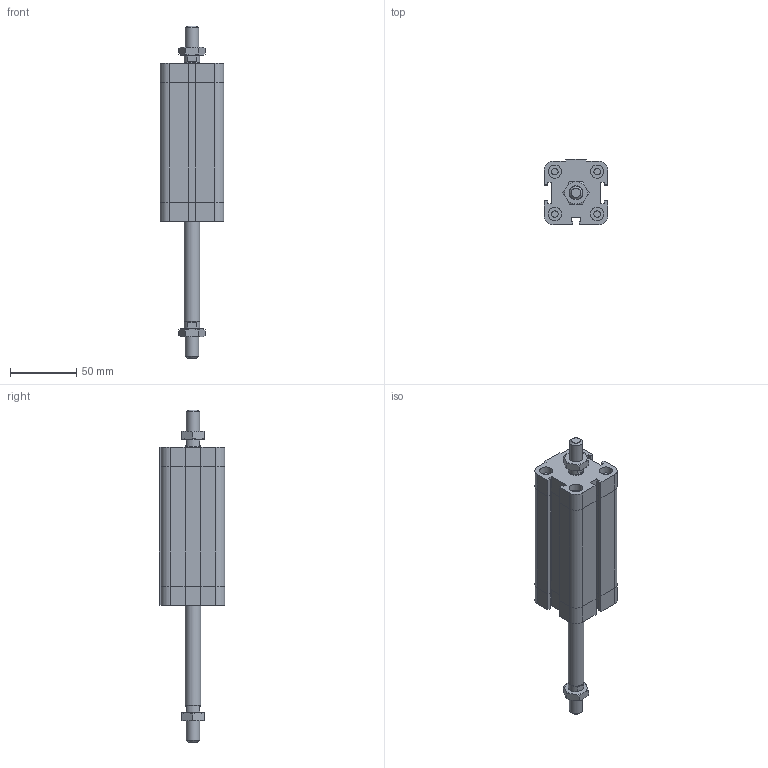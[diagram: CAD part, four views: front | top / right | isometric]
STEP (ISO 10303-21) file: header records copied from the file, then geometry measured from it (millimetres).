
FILE_DESCRIPTION((''),'2;1');
FILE_NAME('I:\Area Tecnica\Disegni\VARIE-3D\Componenti\EUROPE\15##_###_####_04_#\1581_32_0075_04_1.iam.stp','2009-04-20T14:51:17',(''),(''),'Autodesk Inventor 2009','Autodesk Inventor 2009','');
FILE_SCHEMA(('AUTOMOTIVE_DESIGN { 1 0 10303 214 1 1 1 1 }'));
Length unit declared in the file: millimetre
Products named in the file (4): 1581_32_0075_04_1; 1581_32_0075_03_1_C; 1561_32_0075_04_1_S; DBFM10
Assembly tree (4 placements, depth 2):
  1581_32_0075_04_1
    1581_32_0075_03_1_C
    1561_32_0075_04_1_S
    DBFM10  x2
Bounding box: 48 x 49.5 x 250.5 mm (x, y, z)
Volume: 259304.1 mm3; surface area: 50903 mm2
Topology: 4 solids, 4 shells, 222 faces, 483 edges, 289 vertices
Faces by surface type: plane 129, cone 35, bspline 33, cylinder 25
Full cylindrical faces by diameter (mm): 4.917 x4, 8.8 x1, 10 x5, 11.7 x2, 12 x1
Entity records: 5450 total; most frequent: CARTESIAN_POINT 1222, DIRECTION 802, ORIENTED_EDGE 772, EDGE_CURVE 386, AXIS2_PLACEMENT_3D 272, EDGE_LOOP 258, VECTOR 258, LINE 258
